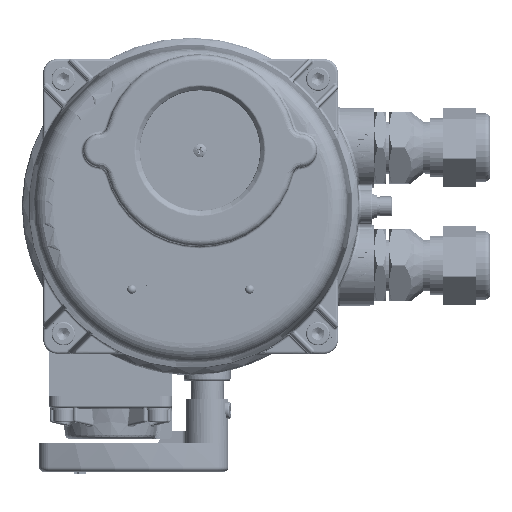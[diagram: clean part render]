
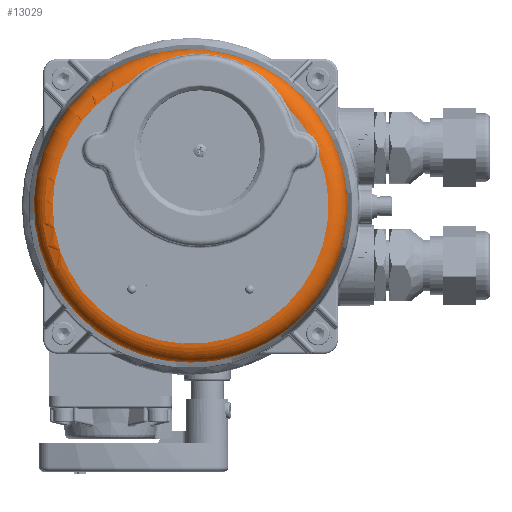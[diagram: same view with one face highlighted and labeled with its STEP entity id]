
A CAD part, top view. The second image highlights one B-rep face of the part: STEP entity #13029.
In plain terms, the highlighted toroidal (fillet/blend) face has major radius 58.491 mm and minor radius 8 mm.
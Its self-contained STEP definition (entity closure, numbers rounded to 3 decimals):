
#13029=ADVANCED_FACE('',(#59303,#59305),#59307,.T.);
#59303=FACE_BOUND('',#59304,.T.);
#59304=EDGE_LOOP('',(#106232,#106233,#106234,#106235,#106236));
#59305=FACE_BOUND('',#59306,.T.);
#59306=EDGE_LOOP('',(#106237,#106238,#106239));
#59307=TOROIDAL_SURFACE('',#59308,58.491,8.);
#59308=AXIS2_PLACEMENT_3D('',#59309,#59310,#59311);
#59309=CARTESIAN_POINT('',(-348.624,-37.619,68.195));
#59310=DIRECTION('',(0.,0.,1.));
#59311=DIRECTION('',(1.,0.,0.));
#106232=ORIENTED_EDGE('',*,*,#131476,.T.);
#106233=ORIENTED_EDGE('',*,*,#131475,.T.);
#106234=ORIENTED_EDGE('',*,*,#131461,.F.);
#106235=ORIENTED_EDGE('',*,*,#131513,.T.);
#106236=ORIENTED_EDGE('',*,*,#131451,.F.);
#106237=ORIENTED_EDGE('',*,*,#131514,.T.);
#106238=ORIENTED_EDGE('',*,*,#131515,.T.);
#106239=ORIENTED_EDGE('',*,*,#131516,.T.);
#131451=EDGE_CURVE('',#160591,#160594,#160595,.T.);
#131461=EDGE_CURVE('',#160604,#160607,#160609,.T.);
#131475=EDGE_CURVE('',#160629,#160607,#160630,.T.);
#131476=EDGE_CURVE('',#160591,#160629,#160631,.T.);
#131513=EDGE_CURVE('',#160604,#160594,#160704,.T.);
#131514=EDGE_CURVE('',#160705,#160706,#160707,.T.);
#131515=EDGE_CURVE('',#160706,#160708,#160709,.T.);
#131516=EDGE_CURVE('',#160708,#160705,#160710,.T.);
#160591=VERTEX_POINT('',#188910);
#160594=VERTEX_POINT('',#188919);
#160595=B_SPLINE_CURVE_WITH_KNOTS('',3,
(#188920,#188921,#188922,#188923,#188924,#188925,#188926,#188927,#188928,#188929,
#188930,#188931,#188932,#188933),
.UNSPECIFIED.,.F.,.F.,
(4,1,1,1,1,1,1,1,1,1,1,4),
(0.,0.134,0.234,0.301,0.376,0.45,
0.522,0.573,0.641,0.747,0.871,
1.),
.UNSPECIFIED.);
#160604=VERTEX_POINT('',#188977);
#160607=VERTEX_POINT('',#188986);
#160609=B_SPLINE_CURVE_WITH_KNOTS('',3,
(#188991,#188992,#188993,#188994,#188995,#188996,#188997,#188998,#188999,#189000,
#189001,#189002,#189003,#189004,#189005,#189006,#189007,#189008,#189009,#189010),
.UNSPECIFIED.,.F.,.F.,
(4,1,1,1,1,1,1,1,1,1,1,1,1,1,1,1,1,4),
(0.,0.057,0.108,0.165,0.224,0.29,
0.357,0.427,0.505,0.58,0.652,
0.711,0.766,0.82,0.871,0.913,
0.954,1.),
.UNSPECIFIED.);
#160629=VERTEX_POINT('',#189131);
#160630=CIRCLE('',#189132,58.491);
#160631=CIRCLE('',#189136,58.491);
#160704=CIRCLE('',#189288,58.491);
#160705=VERTEX_POINT('',#189292);
#160706=VERTEX_POINT('',#189293);
#160707=CIRCLE('',#189294,66.49);
#160708=VERTEX_POINT('',#189298);
#160709=CIRCLE('',#189299,66.49);
#160710=CIRCLE('',#189303,66.49);
#188910=CARTESIAN_POINT('',(-294.286,-15.968,76.195));
#188919=CARTESIAN_POINT('',(-298.965,-6.711,76.195));
#188920=CARTESIAN_POINT('',(-294.286,-15.968,76.195));
#188921=CARTESIAN_POINT('',(-294.201,-15.493,76.195));
#188922=CARTESIAN_POINT('',(-294.126,-14.638,76.174));
#188923=CARTESIAN_POINT('',(-294.198,-13.524,76.131));
#188924=CARTESIAN_POINT('',(-294.352,-12.635,76.097));
#188925=CARTESIAN_POINT('',(-294.561,-11.857,76.074));
#188926=CARTESIAN_POINT('',(-294.85,-11.08,76.06));
#188927=CARTESIAN_POINT('',(-295.171,-10.416,76.057));
#188928=CARTESIAN_POINT('',(-295.533,-9.797,76.063));
#188929=CARTESIAN_POINT('',(-296.012,-9.106,76.083));
#188930=CARTESIAN_POINT('',(-296.746,-8.264,76.124));
#188931=CARTESIAN_POINT('',(-297.757,-7.397,76.176));
#188932=CARTESIAN_POINT('',(-298.548,-6.916,76.195));
#188933=CARTESIAN_POINT('',(-298.965,-6.711,76.195));
#188977=CARTESIAN_POINT('',(-306.741,3.211,76.195));
#188986=CARTESIAN_POINT('',(-374.64,14.769,76.195));
#188991=CARTESIAN_POINT('',(-306.741,3.211,76.195));
#188992=CARTESIAN_POINT('',(-307.429,4.584,76.195));
#188993=CARTESIAN_POINT('',(-308.864,7.102,76.12));
#188994=CARTESIAN_POINT('',(-311.445,10.74,75.836));
#188995=CARTESIAN_POINT('',(-314.387,14.117,75.422));
#188996=CARTESIAN_POINT('',(-317.963,17.414,74.876));
#188997=CARTESIAN_POINT('',(-322.1,20.425,74.256));
#188998=CARTESIAN_POINT('',(-326.873,23.061,73.625));
#188999=CARTESIAN_POINT('',(-332.247,25.177,73.119));
#189000=CARTESIAN_POINT('',(-338.074,26.554,72.929));
#189001=CARTESIAN_POINT('',(-344.069,27.074,73.171));
#189002=CARTESIAN_POINT('',(-349.563,26.775,73.68));
#189003=CARTESIAN_POINT('',(-354.432,25.905,74.256));
#189004=CARTESIAN_POINT('',(-358.729,24.654,74.797));
#189005=CARTESIAN_POINT('',(-362.68,23.055,75.286));
#189006=CARTESIAN_POINT('',(-366.17,21.23,75.678));
#189007=CARTESIAN_POINT('',(-369.207,19.289,75.958));
#189008=CARTESIAN_POINT('',(-371.994,17.188,76.145));
#189009=CARTESIAN_POINT('',(-373.748,15.631,76.195));
#189010=CARTESIAN_POINT('',(-374.64,14.769,76.195));
#189131=CARTESIAN_POINT('',(-399.756,-9.216,76.195));
#189132=AXIS2_PLACEMENT_3D('',#189133,#189134,#189135);
#189133=CARTESIAN_POINT('',(-348.624,-37.619,76.195));
#189134=DIRECTION('',(0.,0.,-1.));
#189135=DIRECTION('',(-0.874,0.486,0.));
#189136=AXIS2_PLACEMENT_3D('',#189137,#189138,#189139);
#189137=CARTESIAN_POINT('',(-348.624,-37.619,76.195));
#189138=DIRECTION('',(0.,0.,-1.));
#189139=DIRECTION('',(0.929,0.37,0.));
#189288=AXIS2_PLACEMENT_3D('',#189289,#189290,#189291);
#189289=CARTESIAN_POINT('',(-348.624,-37.619,76.195));
#189290=DIRECTION('',(0.,0.,-1.));
#189291=DIRECTION('',(0.716,0.698,0.));
#189292=CARTESIAN_POINT('',(-348.624,-104.109,68.334));
#189293=CARTESIAN_POINT('',(-406.748,-5.332,68.334));
#189294=AXIS2_PLACEMENT_3D('',#189295,#189296,#189297);
#189295=CARTESIAN_POINT('',(-348.624,-37.619,68.334));
#189296=DIRECTION('',(0.,0.,1.));
#189297=DIRECTION('',(0.,-1.,0.));
#189298=CARTESIAN_POINT('',(-408.946,-65.586,68.334));
#189299=AXIS2_PLACEMENT_3D('',#189300,#189301,#189302);
#189300=CARTESIAN_POINT('',(-348.624,-37.619,68.334));
#189301=DIRECTION('',(0.,0.,1.));
#189302=DIRECTION('',(-0.874,0.486,0.));
#189303=AXIS2_PLACEMENT_3D('',#189304,#189305,#189306);
#189304=CARTESIAN_POINT('',(-348.624,-37.619,68.334));
#189305=DIRECTION('',(0.,0.,1.));
#189306=DIRECTION('',(-0.907,-0.421,0.));
